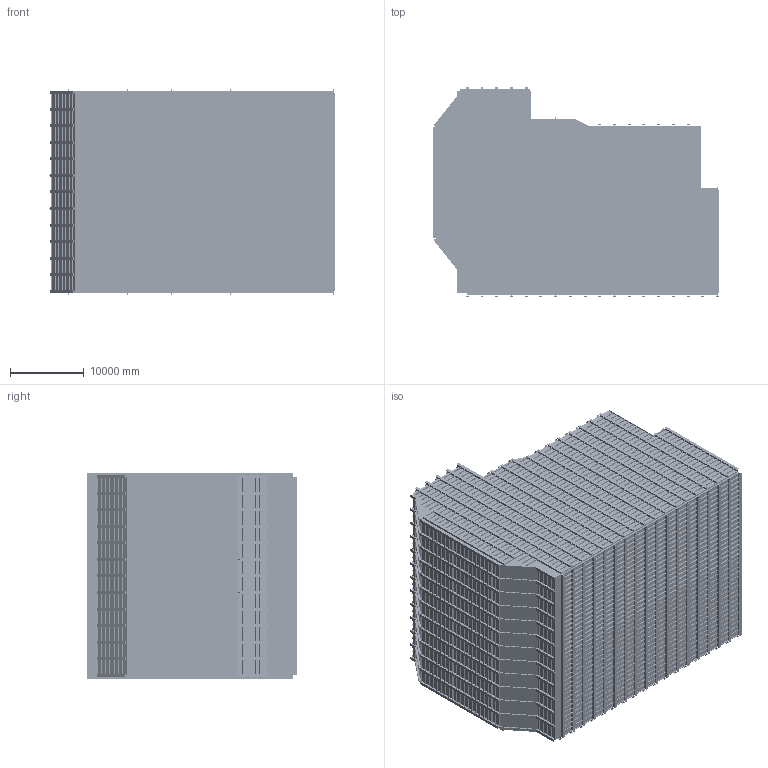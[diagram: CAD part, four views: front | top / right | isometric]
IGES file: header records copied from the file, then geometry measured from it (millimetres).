
Start section: SolidWorks IGES file using analytic representation for surfaces
Global section: file name: C:\Users\ljepsen\Desktop\RM6 Detailed Website\RM6-detailed.IGS; native system: SolidWorks 2018; preprocessor: SolidWorks 2018; author: ljepsen; date: 180717.144913; units: millimetre
Bounding box: 38860.4 x 28439.8 x 27939.75 mm (x, y, z)
Surface area: 24663512174.5 mm2 (no closed solid volume)
Topology: 0 solids, 0 shells, 39763 faces, 181322 edges, 181322 vertices
Faces by surface type: bspline 39719, revolution 44
